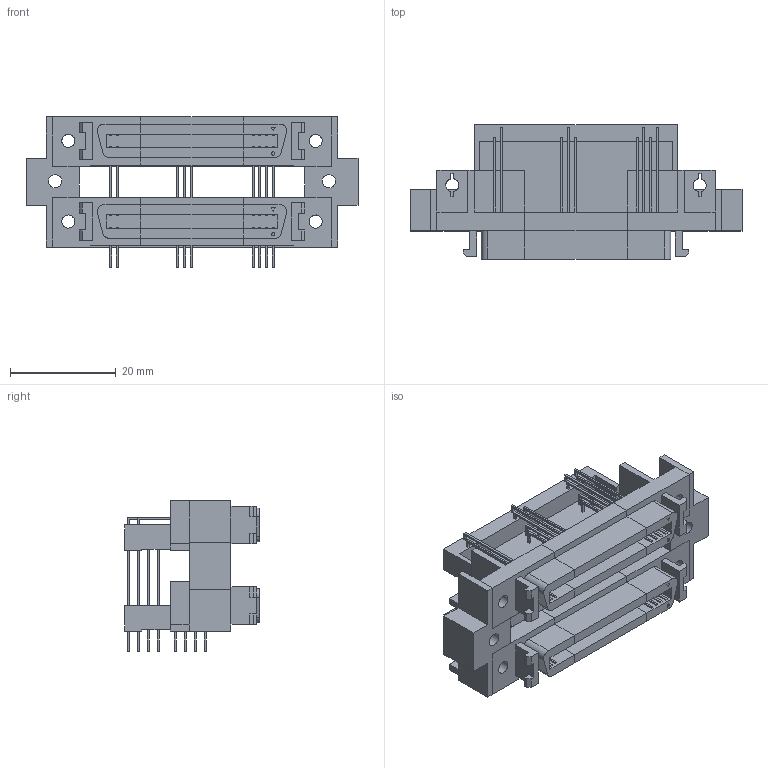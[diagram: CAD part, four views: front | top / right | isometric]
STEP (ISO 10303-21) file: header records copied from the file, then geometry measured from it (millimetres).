
FILE_DESCRIPTION(/* description */ (''),/* implementation_level */ '2;1');
FILE_NAME(/* name */ '10250-M218xx',/* time_stamp */ '2006-08-17T14:01:09-05:00',/* author */ (''),/* organization */ (''),/* preprocessor_version */ 'ST-DEVELOPER v9',/* originating_system */ 'UGS - NX 3.0',/* authorisation */ '');
FILE_SCHEMA (('CONFIG_CONTROL_DESIGN'));
Length unit declared in the file: inch
Products named in the file (1): a0p7B617582h
Bounding box: 62.74 x 25.4 x 28.45 mm (x, y, z)
Volume: 10139 mm3; surface area: 11460.7 mm2
Topology: 1 solids, 1 shells, 857 faces, 2402 edges, 1614 vertices
Faces by surface type: bspline 454, plane 379, revolution 20, cylinder 4
Full cylindrical faces by diameter (mm): 0.635 x2, 2.499 x2
Entity records: 26566 total; most frequent: CARTESIAN_POINT 8352, ORIENTED_EDGE 4788, EDGE_CURVE 2394, DIRECTION 1750, VERTEX_POINT 1614, B_SPLINE_CURVE_WITH_KNOTS 1434, EDGE_LOOP 1056, LINE 950
